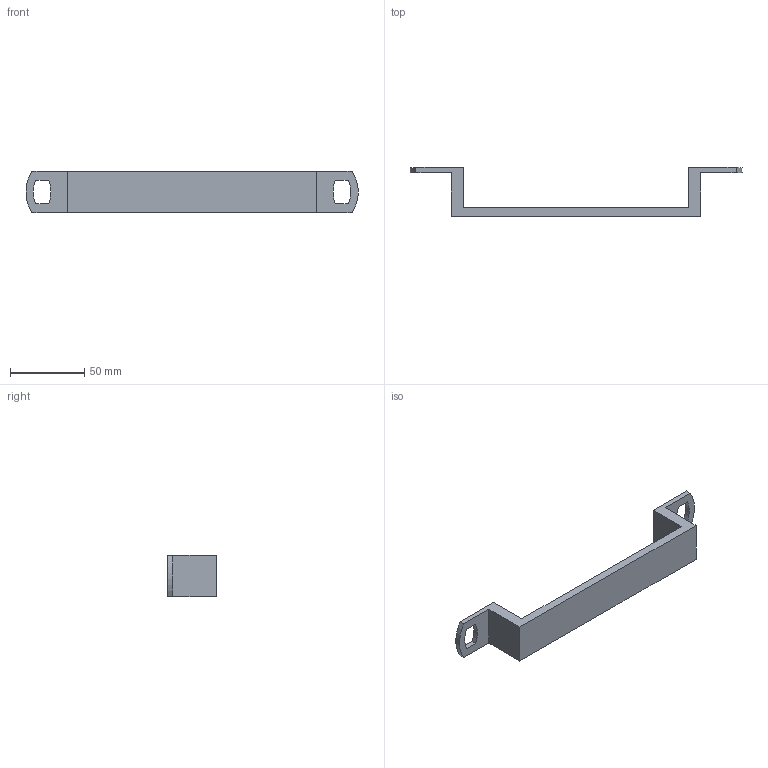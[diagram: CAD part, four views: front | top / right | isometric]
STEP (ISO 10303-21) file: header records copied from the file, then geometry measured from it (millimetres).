
FILE_DESCRIPTION( ( 'STEP AP214' ), '1' );
FILE_NAME( 'D:/Yug/2020/ProDecor_2020/QC/9270230.stp', '2020-06-01T11:48:27', ( '' ), ( '' ), ' ', 'PARTsolutions', ' ' );
FILE_SCHEMA( ( 'AUTOMOTIVE_DESIGN { 1 0 10303 214 1 1 1 1 }' ) );
Length unit declared in the file: millimetre
Products named in the file (1): _9270230
Bounding box: 223.83 x 33 x 28 mm (x, y, z)
Volume: 44127.2 mm3; surface area: 18836.9 mm2
Topology: 1 solids, 1 shells, 26 faces, 66 edges, 44 vertices
Faces by surface type: plane 18, cylinder 8
Full cylindrical faces by diameter (mm): 4 x2
Entity records: 1008 total; most frequent: CARTESIAN_POINT 135, DIRECTION 134, ORIENTED_EDGE 128, EDGE_CURVE 64, LINE 48, VECTOR 48, VERTEX_POINT 44, AXIS2_PLACEMENT_3D 43
